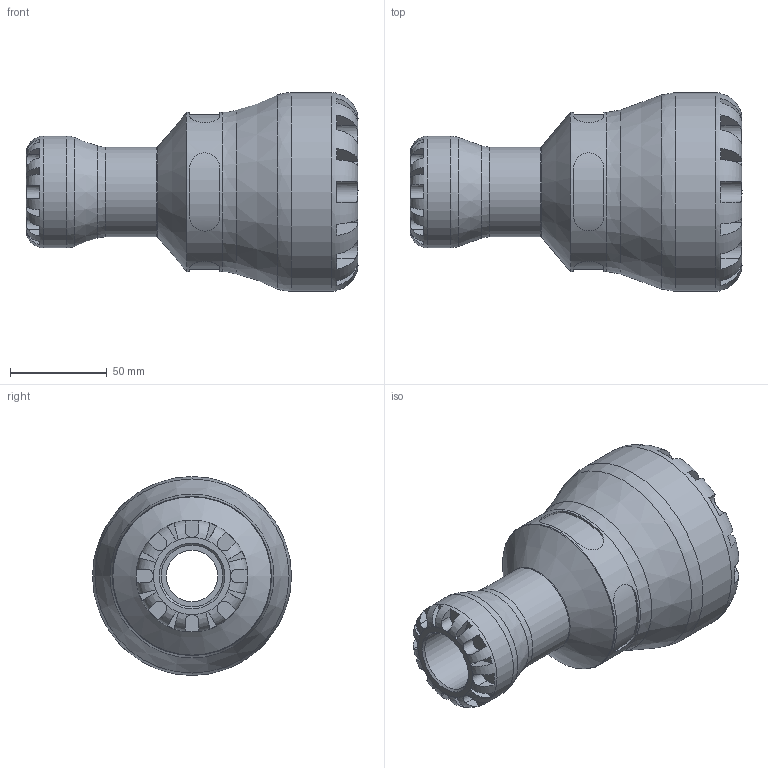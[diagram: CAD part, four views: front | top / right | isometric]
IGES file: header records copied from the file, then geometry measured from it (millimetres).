
Global section: file name: 101100063032_191100063032.ipt; native system: Autodesk Inventor 2015; preprocessor: unknown; author: KIM; date: 20170117.123321; units: millimetre
Bounding box: 172 x 103 x 103 mm (x, y, z)
Volume: 430078.5 mm3; surface area: 80807.6 mm2
Topology: 1 solids, 1 shells, 172 faces, 451 edges, 286 vertices
Faces by surface type: plane 108, revolution 37, cylinder 24, cone 3
Full cylindrical faces by diameter (mm): 46.4 x1, 58 x1, 82.4 x1, 103 x1
